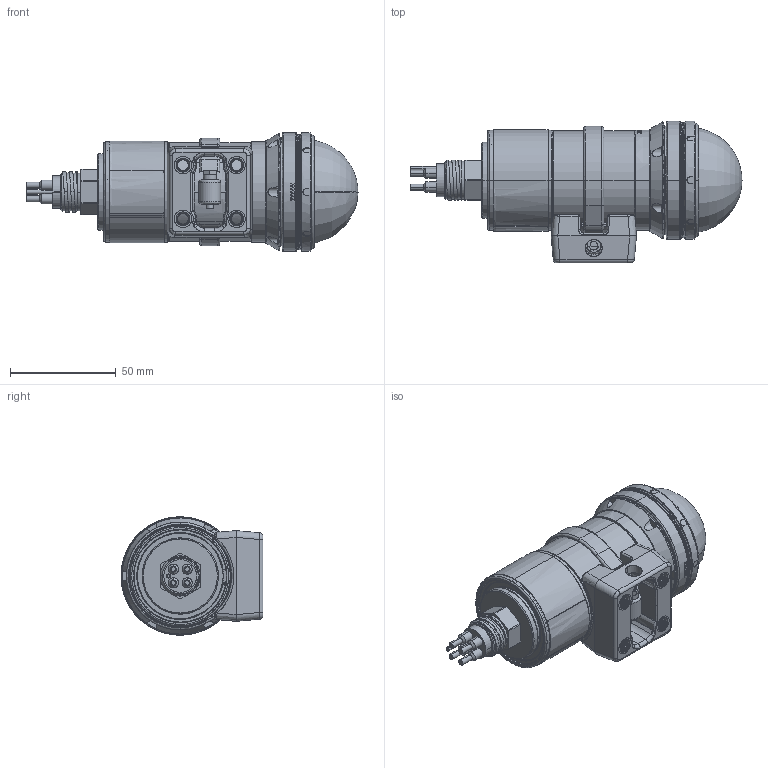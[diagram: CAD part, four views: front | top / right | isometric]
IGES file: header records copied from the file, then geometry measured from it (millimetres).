
Start section: SolidWorks IGES file using analytic representation for surfaces
Global section: file name: C:\users\hector.duran\Work Folders\Desktop\Temp\SWSC-X070-X-TI-X-SUMCBH4MS (IGES).IGS; native system: SolidWorks 2023; preprocessor: SolidWorks 2023; author: hector.duran; date: 240617.144037; units: millimetre
Bounding box: 157.15 x 67.13 x 56 mm (x, y, z)
Surface area: 46177.2 mm2 (no closed solid volume)
Topology: 0 solids, 0 shells, 671 faces, 11055 edges, 11044 vertices
Faces by surface type: revolution 368, bspline 303
